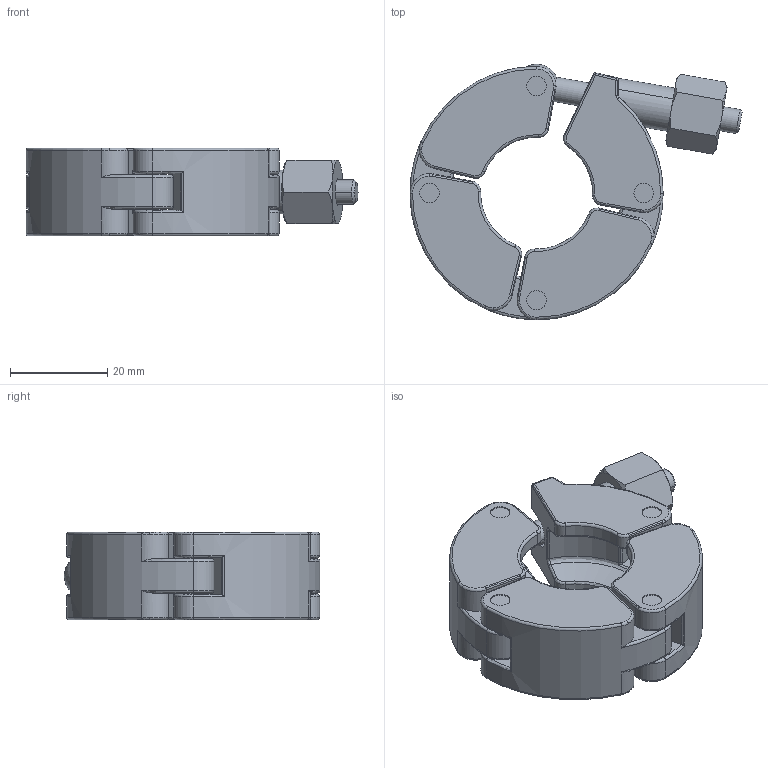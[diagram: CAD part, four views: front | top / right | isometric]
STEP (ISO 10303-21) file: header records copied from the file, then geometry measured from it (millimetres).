
FILE_DESCRIPTION((''),'2;1');
FILE_NAME('W:\211-021.stp','2003-10-02T16:13:28',('KAA'),(''),'Autodesk Inventor (R) 6.0','Autodesk Inventor (R) 6.0','');
FILE_SCHEMA(('CONFIG_CONTROL_DESIGN'));
Length unit declared in the file: millimetre
Products named in the file (1): 211-021
Bounding box: 68.2 x 52.49 x 18 mm (x, y, z)
Volume: 25236.6 mm3; surface area: 12220.9 mm2
Topology: 1 solids, 1 shells, 488 faces, 1234 edges, 749 vertices
Faces by surface type: cylinder 173, torus 120, bspline 72, plane 67, cone 40, sphere 16
Entity records: 33627 total; most frequent: CARTESIAN_POINT 22169, ORIENTED_EDGE 2440, DIRECTION 2432, EDGE_CURVE 1220, AXIS2_PLACEMENT_3D 1071, VERTEX_POINT 749, CIRCLE 649, EDGE_LOOP 515
